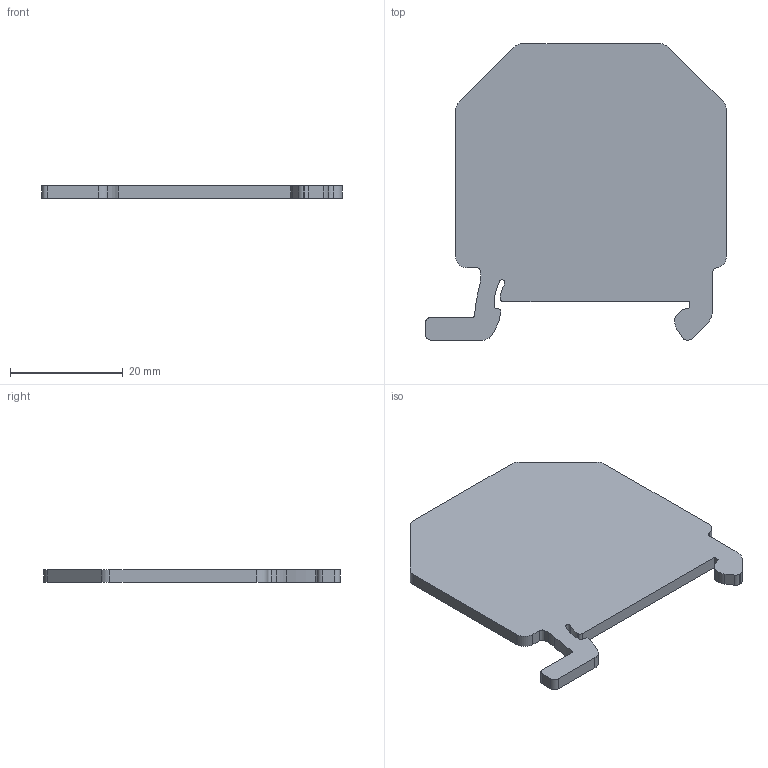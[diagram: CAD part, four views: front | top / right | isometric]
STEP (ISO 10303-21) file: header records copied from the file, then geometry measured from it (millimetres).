
FILE_DESCRIPTION(('OneSpaceDesigner STEP Export'),'2;1');
FILE_NAME('3047167-atp-ut-select.stp','2005-11-02T 7:33:49',(''),(''),'OneSpace Designer STEP processor for AP203 (Solid Model)','OneSpace Designer 13.01 05-Feb-2005 (C) CoCreate Software GmbH','');
FILE_SCHEMA(('CONFIG_CONTROL_DESIGN'));
Length unit declared in the file: millimetre
Products named in the file (2): 3047167-atp-ut-select
Assembly tree (1 placements, depth 2):
  3047167-atp-ut-select
    3047167-atp-ut-select
Bounding box: 53.37 x 52.55 x 2.2 mm (x, y, z)
Volume: 4665.1 mm3; surface area: 4735.5 mm2
Topology: 1 solids, 1 shells, 51 faces, 147 edges, 98 vertices
Faces by surface type: cylinder 27, plane 23, bspline 1
Entity records: 2285 total; most frequent: CARTESIAN_POINT 432, ORIENTED_EDGE 294, DIRECTION 287, EDGE_CURVE 147, AXIS2_PLACEMENT_3D 99, VERTEX_POINT 98, VECTOR 89, LINE 89
